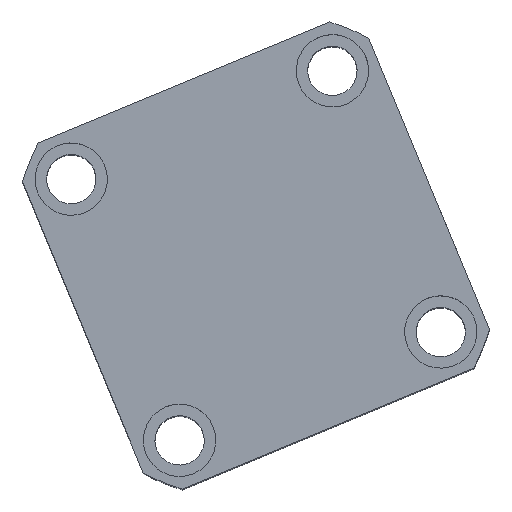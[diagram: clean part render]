
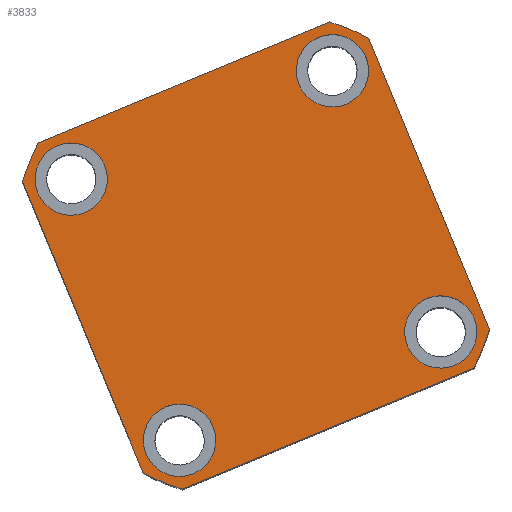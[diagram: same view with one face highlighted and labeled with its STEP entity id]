
A CAD part, top view. The second image highlights one B-rep face of the part: STEP entity #3833.
In plain terms, the highlighted planar face has unit normal (0, 0, 1) as drawn and (0, 0, -1) by its records, which use the part's own axes.
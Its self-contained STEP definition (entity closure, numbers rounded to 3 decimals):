
#5 = CARTESIAN_POINT ( 'NONE',  ( 0., 0., 0. ) ) ;
#31 = CARTESIAN_POINT ( 'NONE',  ( 47.971, -57., 0. ) ) ;
#242 = EDGE_CURVE ( 'NONE', #13601, #10145, #15193, .T. ) ;
#453 = CIRCLE ( 'NONE', #6297, 74.5 ) ;
#581 = DIRECTION ( 'NONE',  ( -1., 0., 0. ) ) ;
#641 = EDGE_CURVE ( 'NONE', #10494, #5716, #4373, .T. ) ;
#659 = ORIENTED_EDGE ( 'NONE', *, *, #1888, .F. ) ;
#813 = DIRECTION ( 'NONE',  ( 0., 0., -1. ) ) ;
#826 = DIRECTION ( 'NONE',  ( -1., 0., 0. ) ) ;
#859 = CARTESIAN_POINT ( 'NONE',  ( 43., 43., 0. ) ) ;
#863 = DIRECTION ( 'NONE',  ( 0., 0., -1. ) ) ;
#870 = CARTESIAN_POINT ( 'NONE',  ( -57., 57., 0. ) ) ;
#875 = CARTESIAN_POINT ( 'NONE',  ( -43., 43., 0. ) ) ;
#881 = DIRECTION ( 'NONE',  ( -1., 0., 0. ) ) ;
#885 = CARTESIAN_POINT ( 'NONE',  ( 32., 43., 0. ) ) ;
#996 = CARTESIAN_POINT ( 'NONE',  ( 43., 43., 0. ) ) ;
#1183 = DIRECTION ( 'NONE',  ( 1., 0., 0. ) ) ;
#1213 = VECTOR ( 'NONE', #13865, 1000. ) ;
#1329 = AXIS2_PLACEMENT_3D ( 'NONE', #996, #9306, #2155 ) ;
#1357 = DIRECTION ( 'NONE',  ( 1., 0., 0. ) ) ;
#1388 = ORIENTED_EDGE ( 'NONE', *, *, #6102, .F. ) ;
#1403 = DIRECTION ( 'NONE',  ( 0., 0., 1. ) ) ;
#1426 = VERTEX_POINT ( 'NONE', #7284 ) ;
#1442 = PLANE ( 'NONE',  #2758 ) ;
#1453 = AXIS2_PLACEMENT_3D ( 'NONE', #875, #863, #881 ) ;
#1529 = CIRCLE ( 'NONE', #12447, 74.5 ) ;
#1888 = EDGE_CURVE ( 'NONE', #10793, #10410, #9037, .T. ) ;
#1926 = DIRECTION ( 'NONE',  ( 0., -1., 0. ) ) ;
#1992 = VERTEX_POINT ( 'NONE', #3742 ) ;
#2119 = CARTESIAN_POINT ( 'NONE',  ( 0., 0., 0. ) ) ;
#2133 = DIRECTION ( 'NONE',  ( 1., 0., 0. ) ) ;
#2155 = DIRECTION ( 'NONE',  ( -1., 0., 0. ) ) ;
#2184 = DIRECTION ( 'NONE',  ( 0., 0., 1. ) ) ;
#2186 = CARTESIAN_POINT ( 'NONE',  ( -54., -43., 0. ) ) ;
#2236 = VECTOR ( 'NONE', #1926, 1000. ) ;
#2241 = CARTESIAN_POINT ( 'NONE',  ( 0., 0., 0. ) ) ;
#2474 = CIRCLE ( 'NONE', #14095, 11. ) ;
#2523 = DIRECTION ( 'NONE',  ( -1., 0., 0. ) ) ;
#2613 = DIRECTION ( 'NONE',  ( 0., 0., -1. ) ) ;
#2624 = LINE ( 'NONE', #9084, #2236 ) ;
#2664 = CARTESIAN_POINT ( 'NONE',  ( -43., -43., 0. ) ) ;
#2711 = CARTESIAN_POINT ( 'NONE',  ( -47.971, 57., 0. ) ) ;
#2758 = AXIS2_PLACEMENT_3D ( 'NONE', #10877, #1403, #1357 ) ;
#2904 = VERTEX_POINT ( 'NONE', #2186 ) ;
#2994 = ORIENTED_EDGE ( 'NONE', *, *, #15110, .F. ) ;
#3327 = EDGE_CURVE ( 'NONE', #2904, #1426, #8683, .T. ) ;
#3329 = DIRECTION ( 'NONE',  ( 1., 0., 0. ) ) ;
#3517 = EDGE_CURVE ( 'NONE', #14993, #4436, #453, .T. ) ;
#3537 = EDGE_CURVE ( 'NONE', #6421, #1992, #6062, .T. ) ;
#3726 = CIRCLE ( 'NONE', #9102, 11. ) ;
#3742 = CARTESIAN_POINT ( 'NONE',  ( 54., 43., 0. ) ) ;
#3747 = DIRECTION ( 'NONE',  ( -1., 0., 0. ) ) ;
#3799 = EDGE_CURVE ( 'NONE', #10145, #13601, #2474, .T. ) ;
#3833 = ADVANCED_FACE ( 'NONE', ( #8124, #11134, #4920, #13900, #10773 ), #1442, .F. ) ;
#4039 = DIRECTION ( 'NONE',  ( 1., 0., 0. ) ) ;
#4071 = CARTESIAN_POINT ( 'NONE',  ( -57., -57., 0. ) ) ;
#4123 = DIRECTION ( 'NONE',  ( 0., 0., -1. ) ) ;
#4125 = ORIENTED_EDGE ( 'NONE', *, *, #3537, .F. ) ;
#4272 = VECTOR ( 'NONE', #826, 1000. ) ;
#4373 = LINE ( 'NONE', #13928, #1213 ) ;
#4436 = VERTEX_POINT ( 'NONE', #12795 ) ;
#4893 = ORIENTED_EDGE ( 'NONE', *, *, #242, .F. ) ;
#4920 = FACE_BOUND ( 'NONE', #5047, .T. ) ;
#4968 = DIRECTION ( 'NONE',  ( 0., 0., -1. ) ) ;
#5047 = EDGE_LOOP ( 'NONE', ( #4125, #13493 ) ) ;
#5716 = VERTEX_POINT ( 'NONE', #8804 ) ;
#5786 = CARTESIAN_POINT ( 'NONE',  ( 47.971, 57., 0. ) ) ;
#5787 = EDGE_LOOP ( 'NONE', ( #8640, #2994 ) ) ;
#6034 = DIRECTION ( 'NONE',  ( 0., 0., -1. ) ) ;
#6062 = CIRCLE ( 'NONE', #7906, 11. ) ;
#6102 = EDGE_CURVE ( 'NONE', #6626, #10793, #9311, .T. ) ;
#6244 = AXIS2_PLACEMENT_3D ( 'NONE', #14666, #7756, #581 ) ;
#6270 = ORIENTED_EDGE ( 'NONE', *, *, #9328, .F. ) ;
#6297 = AXIS2_PLACEMENT_3D ( 'NONE', #2241, #2184, #2133 ) ;
#6421 = VERTEX_POINT ( 'NONE', #885 ) ;
#6450 = EDGE_CURVE ( 'NONE', #7667, #14993, #7510, .T. ) ;
#6468 = ORIENTED_EDGE ( 'NONE', *, *, #6450, .F. ) ;
#6590 = ORIENTED_EDGE ( 'NONE', *, *, #10414, .F. ) ;
#6626 = VERTEX_POINT ( 'NONE', #9807 ) ;
#6836 = DIRECTION ( 'NONE',  ( 1., 0., 0. ) ) ;
#6855 = DIRECTION ( 'NONE',  ( 0., 0., 1. ) ) ;
#6867 = CARTESIAN_POINT ( 'NONE',  ( 0., 0., 0. ) ) ;
#6877 = EDGE_CURVE ( 'NONE', #4436, #6626, #2624, .T. ) ;
#7284 = CARTESIAN_POINT ( 'NONE',  ( -32., -43., 0. ) ) ;
#7356 = AXIS2_PLACEMENT_3D ( 'NONE', #2119, #10381, #3329 ) ;
#7400 = CARTESIAN_POINT ( 'NONE',  ( -43., 43., 0. ) ) ;
#7427 = CARTESIAN_POINT ( 'NONE',  ( 32., -43., 0. ) ) ;
#7468 = EDGE_LOOP ( 'NONE', ( #6590, #12761 ) ) ;
#7510 = LINE ( 'NONE', #870, #4272 ) ;
#7667 = VERTEX_POINT ( 'NONE', #5786 ) ;
#7756 = DIRECTION ( 'NONE',  ( 0., 0., -1. ) ) ;
#7906 = AXIS2_PLACEMENT_3D ( 'NONE', #859, #813, #15216 ) ;
#8124 = FACE_BOUND ( 'NONE', #5787, .T. ) ;
#8173 = EDGE_LOOP ( 'NONE', ( #4893, #14586 ) ) ;
#8346 = AXIS2_PLACEMENT_3D ( 'NONE', #11155, #4123, #12330 ) ;
#8374 = DIRECTION ( 'NONE',  ( 0., 0., 1. ) ) ;
#8508 = CARTESIAN_POINT ( 'NONE',  ( 57., -47.971, 0. ) ) ;
#8640 = ORIENTED_EDGE ( 'NONE', *, *, #3327, .F. ) ;
#8683 = CIRCLE ( 'NONE', #10461, 11. ) ;
#8804 = CARTESIAN_POINT ( 'NONE',  ( 57., 47.971, 0. ) ) ;
#9037 = LINE ( 'NONE', #4071, #11332 ) ;
#9084 = CARTESIAN_POINT ( 'NONE',  ( -57., 57., 0. ) ) ;
#9102 = AXIS2_PLACEMENT_3D ( 'NONE', #13006, #6034, #14181 ) ;
#9306 = DIRECTION ( 'NONE',  ( 0., 0., -1. ) ) ;
#9311 = CIRCLE ( 'NONE', #11720, 74.5 ) ;
#9328 = EDGE_CURVE ( 'NONE', #10410, #10494, #14030, .T. ) ;
#9807 = CARTESIAN_POINT ( 'NONE',  ( -57., -47.971, 0. ) ) ;
#9853 = EDGE_CURVE ( 'NONE', #13647, #13542, #14919, .T. ) ;
#10145 = VERTEX_POINT ( 'NONE', #10317 ) ;
#10317 = CARTESIAN_POINT ( 'NONE',  ( -32., 43., 0. ) ) ;
#10381 = DIRECTION ( 'NONE',  ( 0., 0., 1. ) ) ;
#10410 = VERTEX_POINT ( 'NONE', #31 ) ;
#10414 = EDGE_CURVE ( 'NONE', #13542, #13647, #3726, .T. ) ;
#10461 = AXIS2_PLACEMENT_3D ( 'NONE', #2664, #2613, #2523 ) ;
#10494 = VERTEX_POINT ( 'NONE', #8508 ) ;
#10773 = FACE_OUTER_BOUND ( 'NONE', #14286, .T. ) ;
#10793 = VERTEX_POINT ( 'NONE', #11094 ) ;
#10877 = CARTESIAN_POINT ( 'NONE',  ( 0., 0., 0. ) ) ;
#10961 = CARTESIAN_POINT ( 'NONE',  ( -54., 43., 0. ) ) ;
#10971 = ORIENTED_EDGE ( 'NONE', *, *, #14540, .F. ) ;
#11065 = CIRCLE ( 'NONE', #1329, 11. ) ;
#11094 = CARTESIAN_POINT ( 'NONE',  ( -47.971, -57., 0. ) ) ;
#11134 = FACE_BOUND ( 'NONE', #7468, .T. ) ;
#11155 = CARTESIAN_POINT ( 'NONE',  ( -43., -43., 0. ) ) ;
#11161 = ORIENTED_EDGE ( 'NONE', *, *, #6877, .F. ) ;
#11193 = EDGE_CURVE ( 'NONE', #1992, #6421, #11065, .T. ) ;
#11332 = VECTOR ( 'NONE', #4039, 1000. ) ;
#11720 = AXIS2_PLACEMENT_3D ( 'NONE', #6867, #6855, #6836 ) ;
#12330 = DIRECTION ( 'NONE',  ( -1., 0., 0. ) ) ;
#12447 = AXIS2_PLACEMENT_3D ( 'NONE', #5, #8374, #1183 ) ;
#12761 = ORIENTED_EDGE ( 'NONE', *, *, #9853, .F. ) ;
#12795 = CARTESIAN_POINT ( 'NONE',  ( -57., 47.971, 0. ) ) ;
#13006 = CARTESIAN_POINT ( 'NONE',  ( 43., -43., 0. ) ) ;
#13493 = ORIENTED_EDGE ( 'NONE', *, *, #11193, .F. ) ;
#13542 = VERTEX_POINT ( 'NONE', #7427 ) ;
#13601 = VERTEX_POINT ( 'NONE', #10961 ) ;
#13647 = VERTEX_POINT ( 'NONE', #14499 ) ;
#13865 = DIRECTION ( 'NONE',  ( 0., 1., 0. ) ) ;
#13900 = FACE_BOUND ( 'NONE', #8173, .T. ) ;
#13928 = CARTESIAN_POINT ( 'NONE',  ( 57., 57., 0. ) ) ;
#14030 = CIRCLE ( 'NONE', #7356, 74.5 ) ;
#14095 = AXIS2_PLACEMENT_3D ( 'NONE', #7400, #4968, #3747 ) ;
#14181 = DIRECTION ( 'NONE',  ( -1., 0., 0. ) ) ;
#14248 = CIRCLE ( 'NONE', #8346, 11. ) ;
#14286 = EDGE_LOOP ( 'NONE', ( #10971, #14810, #6270, #659, #1388, #11161, #14999, #6468 ) ) ;
#14499 = CARTESIAN_POINT ( 'NONE',  ( 54., -43., 0. ) ) ;
#14540 = EDGE_CURVE ( 'NONE', #5716, #7667, #1529, .T. ) ;
#14586 = ORIENTED_EDGE ( 'NONE', *, *, #3799, .F. ) ;
#14666 = CARTESIAN_POINT ( 'NONE',  ( 43., -43., 0. ) ) ;
#14810 = ORIENTED_EDGE ( 'NONE', *, *, #641, .F. ) ;
#14919 = CIRCLE ( 'NONE', #6244, 11. ) ;
#14993 = VERTEX_POINT ( 'NONE', #2711 ) ;
#14999 = ORIENTED_EDGE ( 'NONE', *, *, #3517, .F. ) ;
#15110 = EDGE_CURVE ( 'NONE', #1426, #2904, #14248, .T. ) ;
#15193 = CIRCLE ( 'NONE', #1453, 11. ) ;
#15216 = DIRECTION ( 'NONE',  ( -1., 0., 0. ) ) ;
